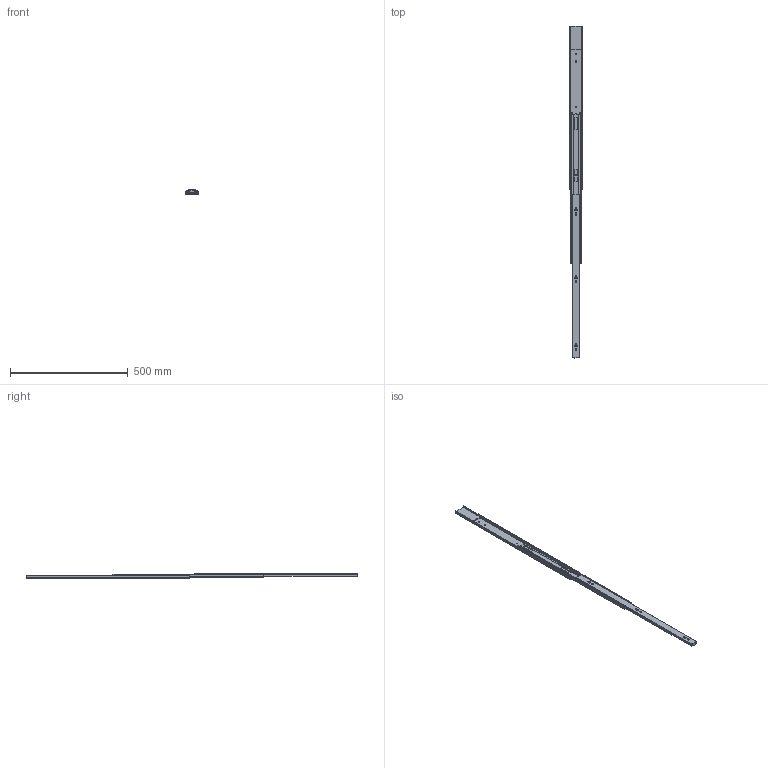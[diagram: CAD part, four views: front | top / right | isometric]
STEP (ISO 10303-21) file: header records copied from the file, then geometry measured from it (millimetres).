
FILE_DESCRIPTION((''),'2;1');
FILE_NAME('78A01_700_OPEN_ASM','2020-09-01T15:20:13',('T170334'),(''),'CREO PARAMETRIC BY PTC INC, 2018260','CREO PARAMETRIC BY PTC INC, 2018260','');
FILE_SCHEMA(('CONFIG_CONTROL_DESIGN'));
Length unit declared in the file: millimetre
Products named in the file (5): OUT_700; MID_700; IN_700; MECHANISM_O; 78A01_700_OPEN_ASM
Assembly tree (4 placements, depth 2):
  78A01_700_OPEN_ASM
    OUT_700
    MID_700
    IN_700
    MECHANISM_O
Bounding box: 53.32 x 1408.2 x 18.84 mm (x, y, z)
Volume: 260364.5 mm3; surface area: 271617.5 mm2
Topology: 4 solids, 4 shells, 170 faces, 482 edges, 320 vertices
Faces by surface type: cylinder 86, plane 84
Entity records: 5787 total; most frequent: CARTESIAN_POINT 1021, DIRECTION 996, ORIENTED_EDGE 964, EDGE_CURVE 482, AXIS2_PLACEMENT_3D 343, VERTEX_POINT 320, VECTOR 310, LINE 310
